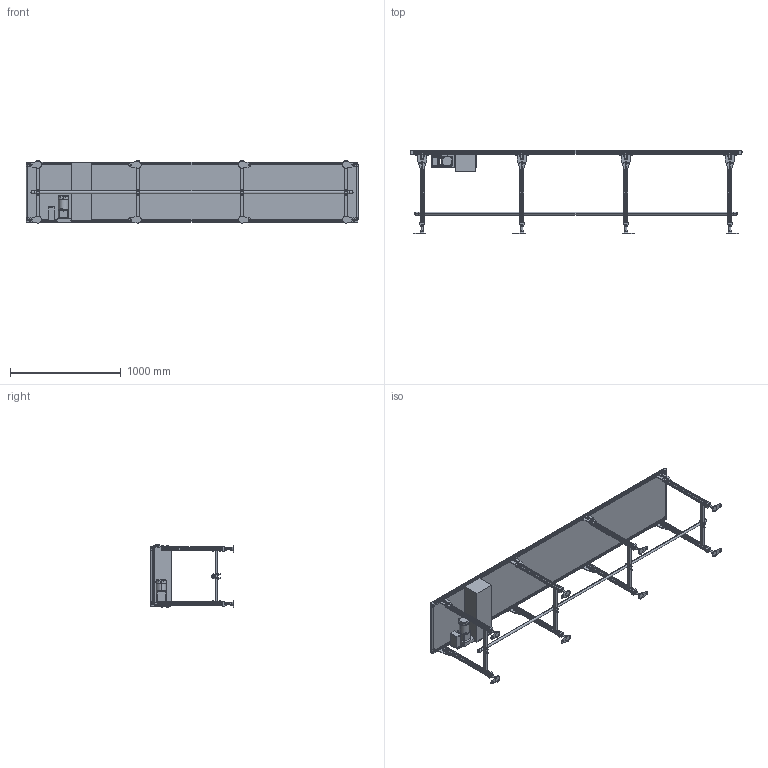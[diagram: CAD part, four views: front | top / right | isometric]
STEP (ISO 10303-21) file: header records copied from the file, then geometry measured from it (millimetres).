
FILE_DESCRIPTION (( 'STEP AP214' ), '1' );
FILE_NAME ('MMX2K-90-500-3000.STEP', '2022-10-25T02:11:53', ( '' ), ( '' ), 'SwSTEP 2.0', 'SolidWorks 2017', '' );
FILE_SCHEMA (( 'AUTOMOTIVE_DESIGN' ));
Length unit declared in the file: millimetre
Products named in the file (1): MMX2K-90-500-3000
Bounding box: 3001.6 x 752.8 x 564.11 mm (x, y, z)
Volume: 34678059.2 mm3; surface area: 12902490.5 mm2
Topology: 66 solids, 66 shells, 3321 faces, 8569 edges, 5529 vertices
Faces by surface type: plane 2292, cylinder 859, cone 108, bspline 32, torus 24, sphere 6
Entity records: 102714 total; most frequent: CARTESIAN_POINT 20139, ORIENTED_EDGE 17106, DIRECTION 16677, EDGE_CURVE 8553, LINE 6271, VECTOR 6271, VERTEX_POINT 5529, AXIS2_PLACEMENT_3D 5203
